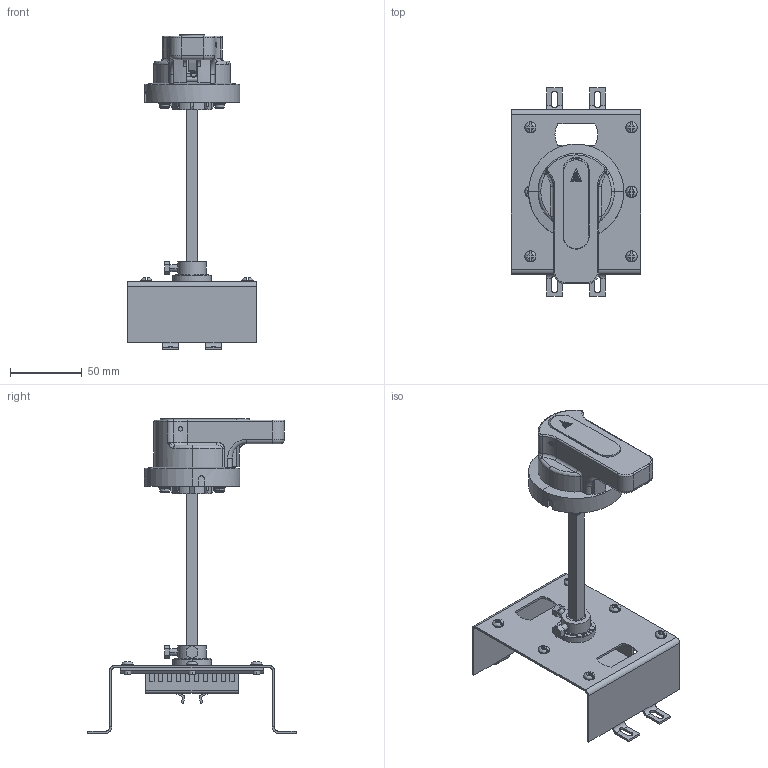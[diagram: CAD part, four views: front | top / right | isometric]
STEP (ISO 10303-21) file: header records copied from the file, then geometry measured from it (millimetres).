
FILE_DESCRIPTION (( 'STEP AP214' ), '1' );
FILE_NAME ('TEM5E-TFH-125-160.STEP', '2026-01-09T08:25:45', ( '' ), ( '' ), 'SwSTEP 2.0', 'SolidWorks 2024', '' );
FILE_SCHEMA (( 'AUTOMOTIVE_DESIGN' ));
Length unit declared in the file: millimetre
Products named in the file (7): 150MM00.stp; TEM5E-TFH-125-160; _65MM95MM125MM_1_0001_1_ASM.stp; TGM1N-TFH-63-125 RH65mm+150mm.stp; _65MM95MM125MM_1_0001_1_1.stp; TGM1N-TFH-63-125 RH65mm+150mm
Assembly tree (6 placements, depth 5):
  TEM5E-TFH-125-160
    TEM5E-TFH-125-160
    TGM1N-TFH-63-125 RH65mm+150mm
      TGM1N-TFH-63-125 RH65mm+150mm.stp
        _65MM95MM125MM_1_0001_1_ASM.stp
          _65MM95MM125MM_1_0001_1_1.stp
        150MM00.stp
Bounding box: 90 x 145.2 x 219.55 mm (x, y, z)
Volume: 168107.7 mm3; surface area: 92542.4 mm2
Topology: 3 solids, 5 shells, 1088 faces, 2923 edges, 1838 vertices
Faces by surface type: plane 626, cylinder 261, cone 81, bspline 70, torus 48, sphere 2
Entity records: 68773 total; most frequent: CARTESIAN_POINT 41846, ORIENTED_EDGE 5812, DIRECTION 5271, EDGE_CURVE 2906, VERTEX_POINT 1838, AXIS2_PLACEMENT_3D 1779, VECTOR 1713, LINE 1713
